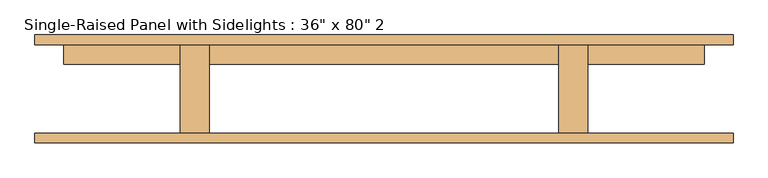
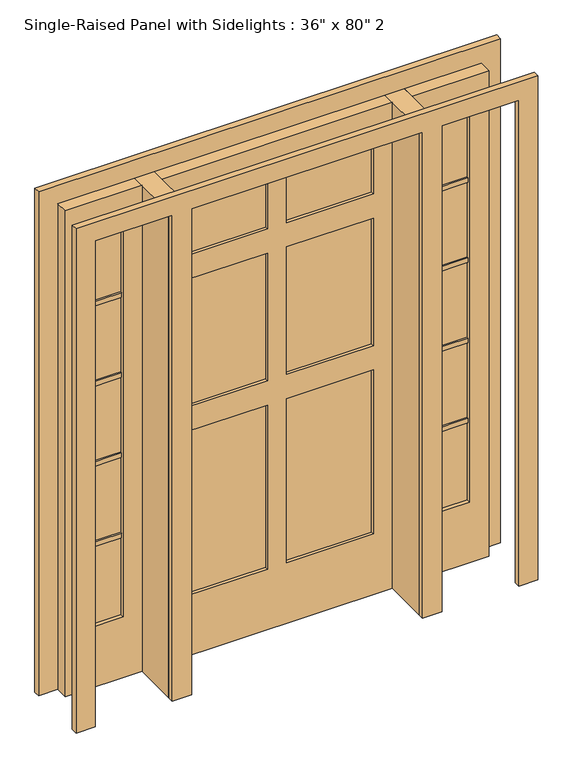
"""IFC4 building model written with IfcOpenShell, lengths in millimetres: door geometry."""

import ifcopenshell
import ifcopenshell.guid

model = None  # the IFC model being written
_history = None  # IfcOwnerHistory: only IFC2X3 demands one
_inside = {}  # id of a spatial element -> (the spatial element, [elements in it])
_under = {}  # id of a project, library or spatial element -> (it, [spatial elements below it])
_declared = {}  # id of a project -> (the project, [libraries it declares])
_typed = {}  # id of a type object -> (the type object, [elements of that type])
_made_of = {}  # id of a material, layer set ... -> (it, [elements and type objects made of it])


def new_model(schema):
    """Start an empty IFC model of exactly this schema.

    Asked for "IFC4X3", IfcOpenShell would pick the latest addendum, in which some entities
    have other attributes; the version numbers below select the first issue.
    IFC2X3 requires an IfcOwnerHistory on every rooted entity: one is made here for all.
    """
    global model, _history
    if schema == "IFC4X3":
        model = ifcopenshell.file(schema_version=(4, 3, 0, 0))
    else:
        model = ifcopenshell.file(schema=schema)
    _inside.clear()
    _under.clear()
    _declared.clear()
    _typed.clear()
    _made_of.clear()
    _history = None
    if model.schema == "IFC2X3":
        org = make("IfcOrganization", Name="unknown")
        user = make(
            "IfcPersonAndOrganization",
            ThePerson=make("IfcPerson", FamilyName="unknown"),
            TheOrganization=org,
        )
        app = make(
            "IfcApplication",
            ApplicationDeveloper=org,
            Version="unknown",
            ApplicationFullName="unknown",
            ApplicationIdentifier="unknown",
        )
        _history = make(
            "IfcOwnerHistory",
            OwningUser=user,
            OwningApplication=app,
            ChangeAction="ADDED",
            CreationDate=0,
        )
    return model


def make(cls, **values):
    """One entity of the class cls with the attributes given. An attribute that is None is left unset."""
    return model.create_entity(
        cls, **{name: value for name, value in values.items() if value is not None}
    )


def rooted(cls, **values):
    """An entity with a GlobalId (a new one), such as an element, a storey or a relation."""
    return make(cls, GlobalId=ifcopenshell.guid.new(), OwnerHistory=_history, **values)


def si_unit(unit_type, name, prefix=None):
    """IfcSIUnit, for example si_unit("LENGTHUNIT", "METRE", prefix="MILLI")."""
    return make("IfcSIUnit", UnitType=unit_type, Prefix=prefix, Name=name)


def assignment(units):
    """IfcUnitAssignment: the units of a project."""
    return None if units is None else make("IfcUnitAssignment", Units=units)


def point(xyz):
    """IfcCartesianPoint."""
    return None if xyz is None else make("IfcCartesianPoint", Coordinates=xyz)


def direction(xyz):
    """IfcDirection."""
    return None if xyz is None else make("IfcDirection", DirectionRatios=xyz)


def frame(location, z_axis=None, x_axis=None):
    """IfcAxis2Placement3D, a coordinate frame: its origin and axes. An axis left out is left unset."""
    return make(
        "IfcAxis2Placement3D",
        Location=point(location),
        Axis=direction(z_axis),
        RefDirection=direction(x_axis),
    )


def origin():
    """The frame at (0, 0, 0) with its axes left unset."""
    return frame((0.0, 0.0, 0.0))


def origin_with_axes():
    """The frame at (0, 0, 0) with the z axis (0, 0, 1) and the x axis (1, 0, 0) written out."""
    return frame((0.0, 0.0, 0.0), z_axis=(0.0, 0.0, 1.0), x_axis=(1.0, 0.0, 0.0))


def place(relative_to, where):
    """IfcLocalPlacement: puts the frame where relative to a parent placement (None: the world)."""
    return make(
        "IfcLocalPlacement", PlacementRelTo=relative_to, RelativePlacement=where
    )


def context(
    kind, dimensions, precision=None, world=None, true_north=None, identifier=None
):
    """IfcGeometricRepresentationContext, for example the 3D "Model" context."""
    return make(
        "IfcGeometricRepresentationContext",
        ContextIdentifier=identifier,
        ContextType=kind,
        CoordinateSpaceDimension=dimensions,
        Precision=precision,
        WorldCoordinateSystem=world,
        TrueNorth=true_north,
    )


def project(units=None, contexts=None):
    """IfcProject with its units and contexts."""
    return rooted(
        "IfcProject",
        Name="project",
        RepresentationContexts=contexts,
        UnitsInContext=assignment(units),
    )


def spatial(cls, under=None, at=None, **own):
    """A site, building, storey or space (cls), placed at a placement, below another one or the project."""
    s = rooted(cls, ObjectPlacement=at, **own)
    if under is not None:
        _under.setdefault(under.id(), (under, []))[1].append(s)
    return s


def polyline(points):
    """IfcPolyline through the points."""
    return make("IfcPolyline", Points=[point(p) for p in points])


def outline(outer, holes=None, kind="AREA"):
    """IfcArbitraryClosedProfileDef: a profile drawn as a closed curve; with holes, ...WithVoids."""
    if holes is None:
        return make("IfcArbitraryClosedProfileDef", ProfileType=kind, OuterCurve=outer)
    return make(
        "IfcArbitraryProfileDefWithVoids",
        ProfileType=kind,
        OuterCurve=outer,
        InnerCurves=holes,
    )


def extrude(swept, where, along, depth):
    """IfcExtrudedAreaSolid: the profile swept, set in the frame where, extruded along a direction by depth."""
    return make(
        "IfcExtrudedAreaSolid",
        SweptArea=swept,
        Position=where,
        ExtrudedDirection=direction(along),
        Depth=depth,
    )


def shape(context_of_items, identifier, shape_type, items):
    """IfcShapeRepresentation: the items that make up one representation, for example the "Body"."""
    return make(
        "IfcShapeRepresentation",
        ContextOfItems=context_of_items,
        RepresentationIdentifier=identifier,
        RepresentationType=shape_type,
        Items=items,
    )


def source(mapping_origin, context_of_items, identifier, shape_type, items):
    """IfcRepresentationMap: a shape defined once, which mapped items show again and again."""
    return make(
        "IfcRepresentationMap",
        MappingOrigin=mapping_origin,
        MappedRepresentation=shape(context_of_items, identifier, shape_type, items),
    )


def transform(
    local_origin,
    x_axis=None,
    y_axis=None,
    z_axis=None,
    scale=None,
    scale2=None,
    scale3=None,
    uniform=True,
):
    """IfcCartesianTransformationOperator3D, or its non-uniform kind. x_axis, y_axis, z_axis: its Axis1, 2, 3."""
    if uniform:
        return make(
            "IfcCartesianTransformationOperator3D",
            Axis1=direction(x_axis),
            Axis2=direction(y_axis),
            LocalOrigin=point(local_origin),
            Scale=scale,
            Axis3=direction(z_axis),
        )
    return make(
        "IfcCartesianTransformationOperator3DnonUniform",
        Axis1=direction(x_axis),
        Axis2=direction(y_axis),
        LocalOrigin=point(local_origin),
        Scale=scale,
        Axis3=direction(z_axis),
        Scale2=scale2,
        Scale3=scale3,
    )


def mapped(mapping_source, mapping_target):
    """IfcMappedItem: shows the shape of a source again, moved by a transform."""
    return make(
        "IfcMappedItem", MappingSource=mapping_source, MappingTarget=mapping_target
    )


def made_of(thing, what):
    """Note that an element or type object is made of a material, layer set ...; save() writes the relation."""
    if what is not None:
        _made_of.setdefault(what.id(), (what, []))[1].append(thing)
    return thing


def element(
    cls,
    number,
    at=None,
    inside=None,
    cuts=None,
    type_object=None,
    material=None,
    context=None,
    identifier="Body",
    shape_type=None,
    held_by="IfcProductDefinitionShape",
    body=None,
    shapes=None,
    **own,
):
    """One element of the class cls, such as IfcWall. Its Tag is "e" and its number.

    at: its placement. inside: the storey or other place that contains it. cuts: it is an
    opening in that element (IfcRelVoidsElement). A single representation is given by context,
    identifier, shape_type and body (its items); several are given by shapes. held_by: the class
    of the entity that holds the representations. save() writes the other relations.
    """
    e = rooted(cls, Tag="e%d" % number, ObjectPlacement=at, **own)
    if body is not None:
        shapes = [shape(context, identifier, shape_type, body)]
    if shapes is not None:
        e.Representation = make(held_by, Representations=shapes)
    if inside is not None:
        _inside.setdefault(inside.id(), (inside, []))[1].append(e)
    if cuts is not None:
        rooted(
            "IfcRelVoidsElement", RelatingBuildingElement=cuts, RelatedOpeningElement=e
        )
    if type_object is not None:
        _typed.setdefault(type_object.id(), (type_object, []))[1].append(e)
    return made_of(e, material)


def aggregate(whole, parts):
    """IfcRelAggregates: a whole, such as a stair, and the parts it consists of."""
    return rooted("IfcRelAggregates", RelatingObject=whole, RelatedObjects=parts)


def save(model, path):
    """Write the relations noted so far, then the file.

    IfcRelAggregates (storeys below a building ...), IfcRelContainedInSpatialStructure (elements
    in a storey), IfcRelDefinesByType, IfcRelAssociatesMaterial and IfcRelDeclares: one each for
    every whole, place, type object, material and project.
    """
    for whole, parts in _under.values():
        aggregate(whole, parts)
    for where, things in _inside.values():
        rooted(
            "IfcRelContainedInSpatialStructure",
            RelatedElements=things,
            RelatingStructure=where,
        )
    for kind, things in _typed.values():
        rooted("IfcRelDefinesByType", RelatedObjects=things, RelatingType=kind)
    for what, things in _made_of.values():
        rooted("IfcRelAssociatesMaterial", RelatedObjects=things, RelatingMaterial=what)
    for by, libraries in _declared.values():
        rooted("IfcRelDeclares", RelatingContext=by, RelatedDefinitions=libraries)
    model.write(path)


def door_ba367ff0(model_context):
    return source(origin(), model_context, "Body", "SweptSolid", [
        extrude(outline(polyline([(762.0, 74.6125), (609.6, 74.6125), (609.6, 106.3625), (762.0, 106.3625), (762.0, 74.6125)])), frame((0.0, 0.0, 579.755), z_axis=(0.0, 0.0, 1.0), x_axis=(1.0, 0.0, 0.0)), (0.0, 0.0, 1.0), 19.05),
        extrude(outline(polyline([(762.0, 74.6125), (609.6, 74.6125), (609.6, 106.3625), (762.0, 106.3625), (762.0, 74.6125)])), frame((0.0, 0.0, 915.035), z_axis=(0.0, 0.0, 1.0), x_axis=(1.0, 0.0, 0.0)), (0.0, 0.0, 1.0), 19.05),
        extrude(outline(polyline([(762.0, 74.6125), (609.6, 74.6125), (609.6, 106.3625), (762.0, 106.3625), (762.0, 74.6125)])), frame((0.0, 0.0, 1250.315), z_axis=(0.0, 0.0, 1.0), x_axis=(1.0, 0.0, 0.0)), (0.0, 0.0, 1.0), 19.05),
        extrude(outline(polyline([(762.0, 74.6125), (609.6, 74.6125), (609.6, 106.3625), (762.0, 106.3625), (762.0, 74.6125)])), frame((0.0, 0.0, 1585.595), z_axis=(0.0, 0.0, 1.0), x_axis=(1.0, 0.0, 0.0)), (0.0, 0.0, 1.0), 19.05),
        extrude(outline(polyline([(-609.6, 74.6125), (-762.0, 74.6125), (-762.0, 106.3625), (-609.6, 106.3625), (-609.6, 74.6125)])), frame((0.0, 0.0, 1585.595), z_axis=(0.0, 0.0, 1.0), x_axis=(1.0, 0.0, 0.0)), (0.0, 0.0, 1.0), 19.05),
        extrude(outline(polyline([(-609.6, 74.6125), (-762.0, 74.6125), (-762.0, 106.3625), (-609.6, 106.3625), (-609.6, 74.6125)])), frame((0.0, 0.0, 1250.315), z_axis=(0.0, 0.0, 1.0), x_axis=(1.0, 0.0, 0.0)), (0.0, 0.0, 1.0), 19.05),
        extrude(outline(polyline([(-609.6, 74.6125), (-762.0, 74.6125), (-762.0, 106.3625), (-609.6, 106.3625), (-609.6, 74.6125)])), frame((0.0, 0.0, 915.035), z_axis=(0.0, 0.0, 1.0), x_axis=(1.0, 0.0, 0.0)), (0.0, 0.0, 1.0), 19.05),
        extrude(outline(polyline([(-609.6, 74.6125), (-762.0, 74.6125), (-762.0, 106.3625), (-609.6, 106.3625), (-609.6, 74.6125)])), frame((0.0, 0.0, 579.755), z_axis=(0.0, 0.0, 1.0), x_axis=(1.0, 0.0, 0.0)), (0.0, 0.0, 1.0), 19.05),
        extrude(outline(polyline([(762.0, 80.9625), (609.6, 80.9625), (609.6, 100.0125), (762.0, 100.0125), (762.0, 80.9625)])), frame((0.0, 0.0, 254.0), z_axis=(0.0, 0.0, 1.0), x_axis=(1.0, 0.0, 0.0)), (0.0, 0.0, 1.0), 1676.4),
        extrude(outline(polyline([(-609.6, 80.9625), (-762.0, 80.9625), (-762.0, 100.0125), (-609.6, 100.0125), (-609.6, 80.9625)])), frame((0.0, 0.0, 254.0), z_axis=(0.0, 0.0, 1.0), x_axis=(1.0, 0.0, 0.0)), (0.0, 0.0, 1.0), 1676.4),
        extrude(outline(polyline([(-457.2, -115.8875), (-533.4, -115.8875), (-533.4, 115.8875), (-457.2, 115.8875), (-457.2, -115.8875)])), origin_with_axes(), (0.0, 0.0, 1.0), 2032.0),
        extrude(outline(polyline([(533.4, -115.8875), (457.2, -115.8875), (457.2, 115.8875), (533.4, 115.8875), (533.4, -115.8875)])), origin_with_axes(), (0.0, 0.0, 1.0), 2032.0),
        extrude(outline(polyline([(2032.0, -533.4), (2032.0, -838.2), (0.0, -838.2), (0.0, -533.4), (2032.0, -533.4)]), holes=[polyline([(1930.4, -609.6), (254.0, -609.6), (254.0, -762.0), (1930.4, -762.0), (1930.4, -609.6)])]), frame((0.0, 65.0875, 0.0), z_axis=(0.0, 1.0, 0.0), x_axis=(0.0, 0.0, 1.0)), (0.0, 0.0, 1.0), 50.8),
        extrude(outline(polyline([(0.0, 533.4), (0.0, 838.2), (2032.0, 838.2), (2032.0, 533.4), (0.0, 533.4)]), holes=[polyline([(1930.4, 762.0), (254.0, 762.0), (254.0, 609.6), (1930.4, 609.6), (1930.4, 762.0)])]), frame((0.0, 65.0875, 0.0), z_axis=(0.0, 1.0, 0.0), x_axis=(0.0, 0.0, 1.0)), (0.0, 0.0, 1.0), 50.8),
        extrude(outline(polyline([(0.0, -914.4), (0.0, -838.2), (2032.0, -838.2), (2032.0, -533.4), (0.0, -533.4), (0.0, -457.2), (2032.0, -457.2), (2032.0, 457.2), (0.0, 457.2), (0.0, 533.4), (2032.0, 533.4), (2032.0, 838.2), (0.0, 838.2), (0.0, 914.4), (2108.2, 914.4), (2108.2, -914.4), (0.0, -914.4)])), frame((0.0, -141.2875, 0.0), z_axis=(0.0, 1.0, 0.0), x_axis=(0.0, 0.0, 1.0)), (0.0, 0.0, 1.0), 25.4),
        extrude(outline(polyline([(0.0, 914.4), (2108.2, 914.4), (2108.2, -914.4), (0.0, -914.4), (0.0, -838.2), (2032.0, -838.2), (2032.0, -533.4), (0.0, -533.4), (0.0, -457.2), (2032.0, -457.2), (2032.0, 457.2), (0.0, 457.2), (0.0, 533.4), (2032.0, 533.4), (2032.0, 838.2), (0.0, 838.2), (0.0, 914.4)])), frame((0.0, 115.8875, 0.0), z_axis=(0.0, 1.0, 0.0), x_axis=(0.0, 0.0, 1.0)), (0.0, 0.0, 1.0), 25.4),
        extrude(outline(polyline([(-38.1, 77.7875), (-381.0, 77.7875), (-381.0, 103.1875), (-38.1, 103.1875), (-38.1, 77.7875)])), frame((0.0, 0.0, 1676.4), z_axis=(0.0, 0.0, 1.0), x_axis=(1.0, 0.0, 0.0)), (0.0, 0.0, 1.0), 254.0),
        extrude(outline(polyline([(381.0, 77.7875), (38.1, 77.7875), (38.1, 103.1875), (381.0, 103.1875), (381.0, 77.7875)])), frame((0.0, 0.0, 1676.4), z_axis=(0.0, 0.0, 1.0), x_axis=(1.0, 0.0, 0.0)), (0.0, 0.0, 1.0), 254.0),
        extrude(outline(polyline([(-38.1, 77.7875), (-381.0, 77.7875), (-381.0, 103.1875), (-38.1, 103.1875), (-38.1, 77.7875)])), frame((0.0, 0.0, 1041.4), z_axis=(0.0, 0.0, 1.0), x_axis=(1.0, 0.0, 0.0)), (0.0, 0.0, 1.0), 533.4),
        extrude(outline(polyline([(381.0, 77.7875), (38.1, 77.7875), (38.1, 103.1875), (381.0, 103.1875), (381.0, 77.7875)])), frame((0.0, 0.0, 1041.4), z_axis=(0.0, 0.0, 1.0), x_axis=(1.0, 0.0, 0.0)), (0.0, 0.0, 1.0), 533.4),
        extrude(outline(polyline([(-38.1, 77.7875), (-381.0, 77.7875), (-381.0, 103.1875), (-38.1, 103.1875), (-38.1, 77.7875)])), frame((0.0, 0.0, 254.0), z_axis=(0.0, 0.0, 1.0), x_axis=(1.0, 0.0, 0.0)), (0.0, 0.0, 1.0), 685.8),
        extrude(outline(polyline([(381.0, 77.7875), (38.1, 77.7875), (38.1, 103.1875), (381.0, 103.1875), (381.0, 77.7875)])), frame((0.0, 0.0, 254.0), z_axis=(0.0, 0.0, 1.0), x_axis=(1.0, 0.0, 0.0)), (0.0, 0.0, 1.0), 685.8),
        extrude(outline(polyline([(2032.0, 457.2), (2032.0, -457.2), (0.0, -457.2), (0.0, 457.2), (2032.0, 457.2)]), holes=[polyline([(1930.4, -38.1), (1676.4, -38.1), (1676.4, -381.0), (1930.4, -381.0), (1930.4, -38.1)]), polyline([(1930.4, 381.0), (1676.4, 381.0), (1676.4, 38.1), (1930.4, 38.1), (1930.4, 381.0)]), polyline([(1574.8, -38.1), (1041.4, -38.1), (1041.4, -381.0), (1574.8, -381.0), (1574.8, -38.1)]), polyline([(1574.8, 381.0), (1041.4, 381.0), (1041.4, 38.1), (1574.8, 38.1), (1574.8, 381.0)]), polyline([(939.8, -38.1), (254.0, -38.1), (254.0, -381.0), (939.8, -381.0), (939.8, -38.1)]), polyline([(939.8, 381.0), (254.0, 381.0), (254.0, 38.1), (939.8, 38.1), (939.8, 381.0)])]), frame((0.0, 65.0875, 0.0), z_axis=(0.0, 1.0, 0.0), x_axis=(0.0, 0.0, 1.0)), (0.0, 0.0, 1.0), 50.8),
    ])


if __name__ == "__main__":
    model = new_model("IFC4")
    model_context = context("Model", 3, world=origin())
    ifc_project = project(units=[si_unit("LENGTHUNIT", "METRE", prefix="MILLI")], contexts=[model_context])
    site = spatial("IfcSite", under=ifc_project)
    building = spatial("IfcBuilding", under=site)
    placement = place(None, origin())
    door_shape = door_ba367ff0(model_context)
    element("IfcDoor", 1, ObjectType="Single-Raised Panel with Sidelights : 36\" x 80\" 2", at=placement, inside=building, context=model_context, shape_type="MappedRepresentation", body=[
        mapped(door_shape, transform((0.0, 0.0, 0.0), x_axis=(1.0, 0.0, 0.0), y_axis=(0.0, 1.0, 0.0), z_axis=(0.0, 0.0, 1.0))),
    ])
    save(model, "model.ifc")
